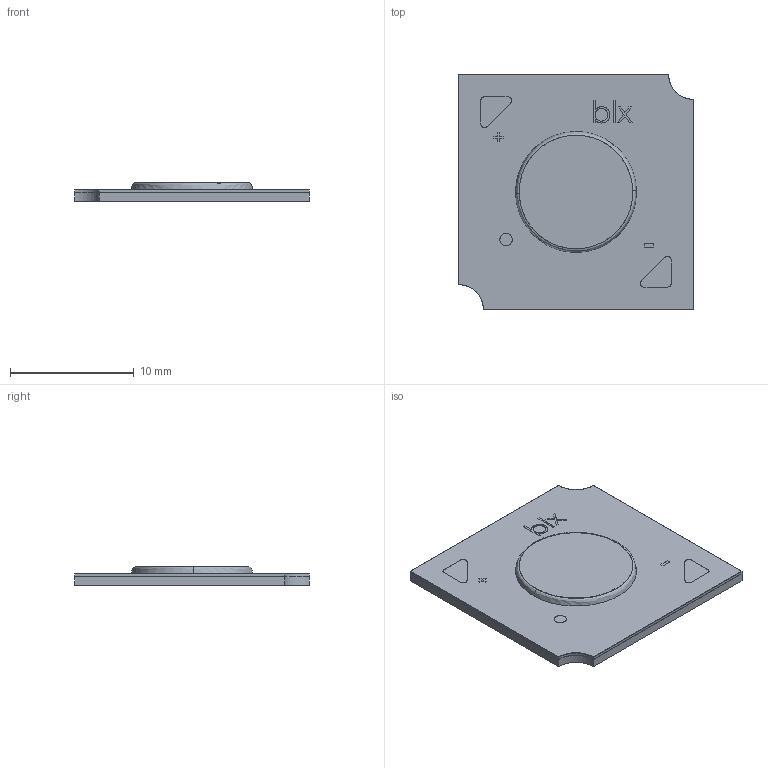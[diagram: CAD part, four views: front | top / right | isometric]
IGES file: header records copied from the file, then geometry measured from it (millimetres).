
Start section: SolidWorks IGES file using analytic representation for surfaces
Global section: file name: C:\Users\jiaqichen\Desktop\V Series HD\V9\CAD Files\V-9 Single Array.IGS; native system: SolidWorks 2018; preprocessor: SolidWorks 2018; author: jiaqichen; date: 180212.150747; units: millimetre
Bounding box: 19 x 19 x 1.52 mm (x, y, z)
Surface area: 1397.8 mm2 (no closed solid volume)
Topology: 0 solids, 0 shells, 69 faces, 1174 edges, 1174 vertices
Faces by surface type: bspline 59, revolution 10
